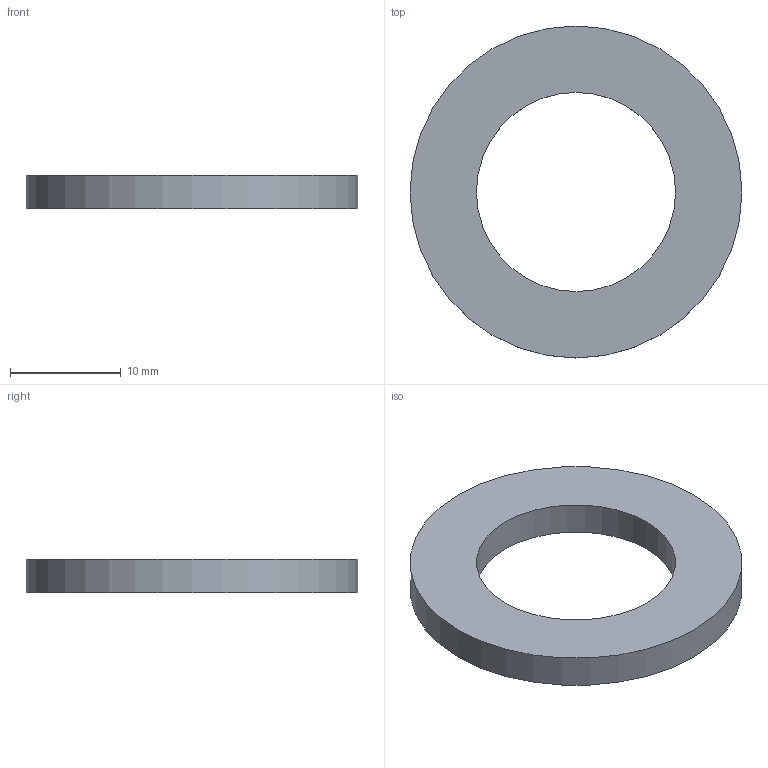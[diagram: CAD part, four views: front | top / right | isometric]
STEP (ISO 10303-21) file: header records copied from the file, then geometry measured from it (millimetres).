
FILE_DESCRIPTION(('Open CASCADE Model'),'2;1');
FILE_NAME('Open CASCADE Shape Model','2026-10-19T10:09:20',('Author'),( 'Open CASCADE'),'Open CASCADE STEP processor 8.0','Open CASCADE 8.0' ,'Unknown');
FILE_SCHEMA(('AUTOMOTIVE_DESIGN { 1 0 10303 214 1 1 1 1 }'));
Length unit declared in the file: millimetre
Products named in the file (1): ANCLA_ARANDELA_D30_D18_t3_REF 102
Bounding box: 30 x 30 x 3 mm (x, y, z)
Volume: 1357.2 mm3; surface area: 1357.2 mm2
Topology: 1 solids, 1 shells, 4 faces, 6 edges, 4 vertices
Faces by surface type: cylinder 2, plane 2
Full cylindrical faces by diameter (mm): 18 x1, 30 x1
Entity records: 186 total; most frequent: DIRECTION 32, CARTESIAN_POINT 27, ORIENTED_EDGE 12, PCURVE 12, DEFINITIONAL_REPRESENTATION 12, LINE 10, VECTOR 10, AXIS2_PLACEMENT_3D 9
